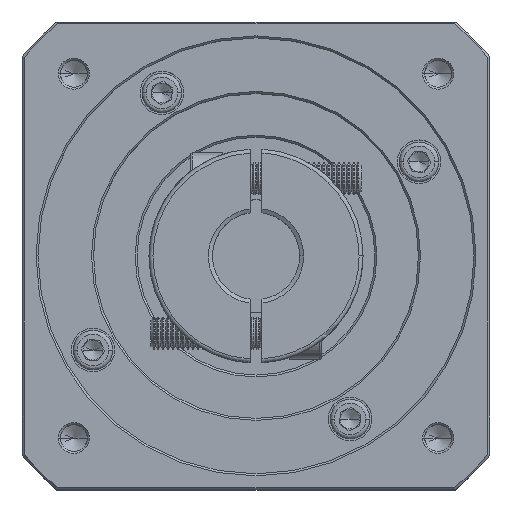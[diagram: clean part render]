
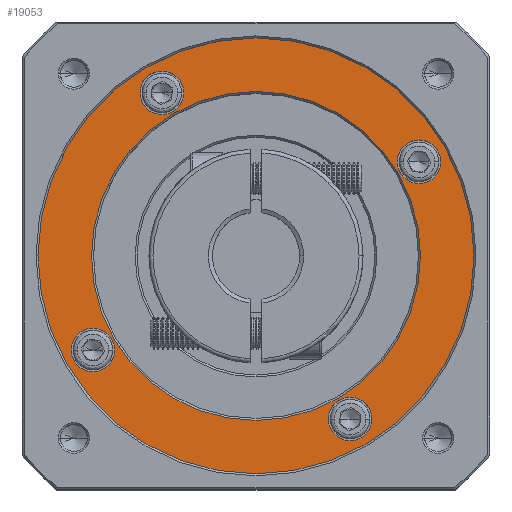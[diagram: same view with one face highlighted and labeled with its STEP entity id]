
A CAD part, top view. The second image highlights one B-rep face of the part: STEP entity #19053.
In plain terms, the highlighted planar face has unit normal (0, 0, 1).
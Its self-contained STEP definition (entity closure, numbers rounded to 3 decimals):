
#824 = EDGE_CURVE ( 'NONE', #25092, #19302, #37612, .T. ) ;
#841 = EDGE_CURVE ( 'NONE', #19302, #25092, #112858, .T. ) ;
#1869 = FACE_BOUND ( 'NONE', #103490, .T. ) ;
#4823 = FACE_BOUND ( 'NONE', #60675, .T. ) ;
#6546 = DIRECTION ( 'NONE',  ( 0., 0., -1. ) ) ;
#6606 = VERTEX_POINT ( 'NONE', #45076 ) ;
#6846 = DIRECTION ( 'NONE',  ( 0., -1., 0. ) ) ;
#8306 = EDGE_LOOP ( 'NONE', ( #118005, #89134 ) ) ;
#11753 = DIRECTION ( 'NONE',  ( 0., 0., -1. ) ) ;
#12532 = AXIS2_PLACEMENT_3D ( 'NONE', #50468, #116420, #59921 ) ;
#12614 = DIRECTION ( 'NONE',  ( 0., 0., -1. ) ) ;
#13127 = CIRCLE ( 'NONE', #65227, 41.5 ) ;
#15057 = EDGE_CURVE ( 'NONE', #108853, #54352, #22731, .T. ) ;
#16258 = VERTEX_POINT ( 'NONE', #66532 ) ;
#17501 = AXIS2_PLACEMENT_3D ( 'NONE', #32629, #98555, #42110 ) ;
#19043 = CIRCLE ( 'NONE', #31372, 5.5 ) ;
#19053 = ADVANCED_FACE ( 'NONE', ( #52032, #4823, #1869, #99175, #74127, #49088 ), #121142, .T. ) ;
#19302 = VERTEX_POINT ( 'NONE', #33238 ) ;
#21837 = CARTESIAN_POINT ( 'NONE',  ( 61.507, 82.249, 9.997 ) ) ;
#22731 = CIRCLE ( 'NONE', #115593, 5.5 ) ;
#23173 = DIRECTION ( 'NONE',  ( 0., 0., -1. ) ) ;
#24324 = CARTESIAN_POINT ( 'NONE',  ( 2.121, 99.635, 9.997 ) ) ;
#25092 = VERTEX_POINT ( 'NONE', #113978 ) ;
#25224 = DIRECTION ( 'NONE',  ( 0., 0., -1. ) ) ;
#26008 = CARTESIAN_POINT ( 'NONE',  ( 14.007, 164.521, 9.997 ) ) ;
#27223 = VERTEX_POINT ( 'NONE', #75553 ) ;
#31005 = CARTESIAN_POINT ( 'NONE',  ( 89.893, 147.135, 9.997 ) ) ;
#31372 = AXIS2_PLACEMENT_3D ( 'NONE', #68289, #11753, #77747 ) ;
#31474 = DIRECTION ( 'NONE',  ( 0., 0., 1. ) ) ;
#32390 = DIRECTION ( 'NONE',  ( 0., 0., -1. ) ) ;
#32629 = CARTESIAN_POINT ( 'NONE',  ( 67.007, 82.249, 9.997 ) ) ;
#33238 = CARTESIAN_POINT ( 'NONE',  ( -11.743, 123.385, 9.997 ) ) ;
#33782 = DIRECTION ( 'NONE',  ( 1., 0., 0. ) ) ;
#35491 = ORIENTED_EDGE ( 'NONE', *, *, #43379, .T. ) ;
#36175 = VERTEX_POINT ( 'NONE', #26008 ) ;
#36637 = CARTESIAN_POINT ( 'NONE',  ( 43.257, 123.385, 9.997 ) ) ;
#37384 = CIRCLE ( 'NONE', #54753, 5.5 ) ;
#37597 = VERTEX_POINT ( 'NONE', #31005 ) ;
#37612 = CIRCLE ( 'NONE', #122374, 55. ) ;
#37900 = CARTESIAN_POINT ( 'NONE',  ( -3.379, 99.635, 9.997 ) ) ;
#37907 = CIRCLE ( 'NONE', #17501, 5.5 ) ;
#42110 = DIRECTION ( 'NONE',  ( 1., 0., 0. ) ) ;
#42151 = EDGE_CURVE ( 'NONE', #85956, #16258, #48734, .T. ) ;
#43379 = EDGE_CURVE ( 'NONE', #54352, #108853, #49815, .T. ) ;
#44094 = ORIENTED_EDGE ( 'NONE', *, *, #98171, .T. ) ;
#45076 = CARTESIAN_POINT ( 'NONE',  ( 43.257, 164.885, 9.997 ) ) ;
#45386 = CARTESIAN_POINT ( 'NONE',  ( 19.507, 164.521, 9.997 ) ) ;
#46102 = DIRECTION ( 'NONE',  ( 1., 0., 0. ) ) ;
#46788 = CARTESIAN_POINT ( 'NONE',  ( 78.893, 147.135, 9.997 ) ) ;
#48734 = CIRCLE ( 'NONE', #55676, 5.5 ) ;
#49088 = FACE_BOUND ( 'NONE', #106080, .T. ) ;
#49815 = CIRCLE ( 'NONE', #77169, 5.5 ) ;
#50468 = CARTESIAN_POINT ( 'NONE',  ( 43.257, 123.385, 9.997 ) ) ;
#51502 = EDGE_CURVE ( 'NONE', #16258, #85956, #37907, .T. ) ;
#52032 = FACE_OUTER_BOUND ( 'NONE', #8306, .T. ) ;
#53892 = ORIENTED_EDGE ( 'NONE', *, *, #105366, .T. ) ;
#54352 = VERTEX_POINT ( 'NONE', #37900 ) ;
#54753 = AXIS2_PLACEMENT_3D ( 'NONE', #45386, #111389, #54881 ) ;
#54881 = DIRECTION ( 'NONE',  ( 1., 0., 0. ) ) ;
#55231 = ORIENTED_EDGE ( 'NONE', *, *, #94862, .T. ) ;
#55676 = AXIS2_PLACEMENT_3D ( 'NONE', #63079, #6546, #72577 ) ;
#56552 = AXIS2_PLACEMENT_3D ( 'NONE', #81664, #25224, #91124 ) ;
#59921 = DIRECTION ( 'NONE',  ( 1., 0., 0. ) ) ;
#60675 = EDGE_LOOP ( 'NONE', ( #53892, #44094 ) ) ;
#62511 = ORIENTED_EDGE ( 'NONE', *, *, #42151, .T. ) ;
#62672 = AXIS2_PLACEMENT_3D ( 'NONE', #88835, #32390, #98315 ) ;
#63079 = CARTESIAN_POINT ( 'NONE',  ( 67.007, 82.249, 9.997 ) ) ;
#63404 = DIRECTION ( 'NONE',  ( 0., 0., -1. ) ) ;
#64097 = CARTESIAN_POINT ( 'NONE',  ( 7.621, 99.635, 9.997 ) ) ;
#65227 = AXIS2_PLACEMENT_3D ( 'NONE', #119847, #63404, #6846 ) ;
#66014 = EDGE_CURVE ( 'NONE', #93159, #36175, #122026, .T. ) ;
#66532 = CARTESIAN_POINT ( 'NONE',  ( 72.507, 82.249, 9.997 ) ) ;
#67244 = CARTESIAN_POINT ( 'NONE',  ( 25.007, 164.521, 9.997 ) ) ;
#68289 = CARTESIAN_POINT ( 'NONE',  ( 84.393, 147.135, 9.997 ) ) ;
#69143 = CARTESIAN_POINT ( 'NONE',  ( 2.121, 99.635, 9.997 ) ) ;
#71101 = EDGE_CURVE ( 'NONE', #36175, #93159, #37384, .T. ) ;
#71274 = ORIENTED_EDGE ( 'NONE', *, *, #105746, .T. ) ;
#72577 = DIRECTION ( 'NONE',  ( 1., 0., 0. ) ) ;
#74127 = FACE_BOUND ( 'NONE', #90996, .T. ) ;
#75553 = CARTESIAN_POINT ( 'NONE',  ( 43.257, 81.885, 9.997 ) ) ;
#77169 = AXIS2_PLACEMENT_3D ( 'NONE', #24324, #90245, #33782 ) ;
#77747 = DIRECTION ( 'NONE',  ( 1., 0., 0. ) ) ;
#78623 = DIRECTION ( 'NONE',  ( 1., 0., 0. ) ) ;
#79656 = CARTESIAN_POINT ( 'NONE',  ( 84.393, 147.135, 9.997 ) ) ;
#80771 = ORIENTED_EDGE ( 'NONE', *, *, #15057, .T. ) ;
#81664 = CARTESIAN_POINT ( 'NONE',  ( 19.507, 164.521, 9.997 ) ) ;
#85956 = VERTEX_POINT ( 'NONE', #21837 ) ;
#87924 = CARTESIAN_POINT ( 'NONE',  ( 43.257, 123.385, 9.997 ) ) ;
#88835 = CARTESIAN_POINT ( 'NONE',  ( 43.257, 123.385, 9.997 ) ) ;
#89107 = DIRECTION ( 'NONE',  ( 1., 0., 0. ) ) ;
#89134 = ORIENTED_EDGE ( 'NONE', *, *, #841, .T. ) ;
#90245 = DIRECTION ( 'NONE',  ( 0., 0., -1. ) ) ;
#90996 = EDGE_LOOP ( 'NONE', ( #93560, #111203 ) ) ;
#91124 = DIRECTION ( 'NONE',  ( 1., 0., 0. ) ) ;
#93159 = VERTEX_POINT ( 'NONE', #67244 ) ;
#93560 = ORIENTED_EDGE ( 'NONE', *, *, #66014, .T. ) ;
#94862 = EDGE_CURVE ( 'NONE', #37597, #103603, #114331, .T. ) ;
#97401 = DIRECTION ( 'NONE',  ( 1., 0., 0. ) ) ;
#98171 = EDGE_CURVE ( 'NONE', #6606, #27223, #111221, .T. ) ;
#98315 = DIRECTION ( 'NONE',  ( 0., -1., 0. ) ) ;
#98555 = DIRECTION ( 'NONE',  ( 0., 0., -1. ) ) ;
#99175 = FACE_BOUND ( 'NONE', #101460, .T. ) ;
#101460 = EDGE_LOOP ( 'NONE', ( #112210, #62511 ) ) ;
#102569 = DIRECTION ( 'NONE',  ( 0., 0., 1. ) ) ;
#103490 = EDGE_LOOP ( 'NONE', ( #55231, #71274 ) ) ;
#103603 = VERTEX_POINT ( 'NONE', #46788 ) ;
#105366 = EDGE_CURVE ( 'NONE', #27223, #6606, #13127, .T. ) ;
#105746 = EDGE_CURVE ( 'NONE', #103603, #37597, #19043, .T. ) ;
#106080 = EDGE_LOOP ( 'NONE', ( #80771, #35491 ) ) ;
#108853 = VERTEX_POINT ( 'NONE', #64097 ) ;
#111203 = ORIENTED_EDGE ( 'NONE', *, *, #71101, .T. ) ;
#111221 = CIRCLE ( 'NONE', #62672, 41.5 ) ;
#111389 = DIRECTION ( 'NONE',  ( 0., 0., -1. ) ) ;
#112160 = AXIS2_PLACEMENT_3D ( 'NONE', #36637, #102569, #46102 ) ;
#112210 = ORIENTED_EDGE ( 'NONE', *, *, #51502, .T. ) ;
#112858 = CIRCLE ( 'NONE', #12532, 55. ) ;
#113978 = CARTESIAN_POINT ( 'NONE',  ( 98.257, 123.385, 9.997 ) ) ;
#114331 = CIRCLE ( 'NONE', #119923, 5.5 ) ;
#115593 = AXIS2_PLACEMENT_3D ( 'NONE', #69143, #12614, #78623 ) ;
#116420 = DIRECTION ( 'NONE',  ( 0., 0., 1. ) ) ;
#118005 = ORIENTED_EDGE ( 'NONE', *, *, #824, .T. ) ;
#119847 = CARTESIAN_POINT ( 'NONE',  ( 43.257, 123.385, 9.997 ) ) ;
#119923 = AXIS2_PLACEMENT_3D ( 'NONE', #79656, #23173, #89107 ) ;
#121142 = PLANE ( 'NONE',  #112160 ) ;
#122026 = CIRCLE ( 'NONE', #56552, 5.5 ) ;
#122374 = AXIS2_PLACEMENT_3D ( 'NONE', #87924, #31474, #97401 ) ;
